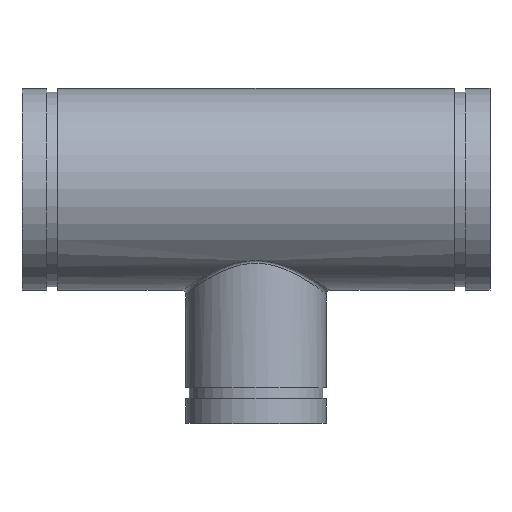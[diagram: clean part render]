
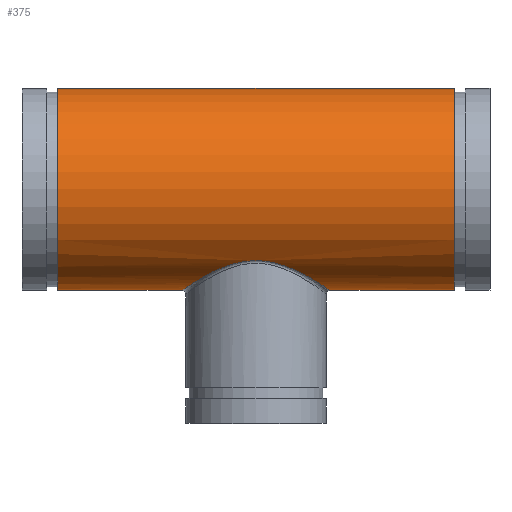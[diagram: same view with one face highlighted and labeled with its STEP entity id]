
A CAD part, top view. The second image highlights one B-rep face of the part: STEP entity #375.
In plain terms, the highlighted cylindrical face has radius 87.63 mm (diameter 175.26 mm), a full revolution.
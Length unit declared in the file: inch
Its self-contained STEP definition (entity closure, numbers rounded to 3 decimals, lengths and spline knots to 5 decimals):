
#54=FACE_BOUND('',#119,.T.);
#65=LINE('',#833,#76);
#76=VECTOR('',#483,3.45);
#87=CYLINDRICAL_SURFACE('',#415,3.45);
#98=FACE_OUTER_BOUND('',#118,.T.);
#118=EDGE_LOOP('',(#266,#267,#268,#269));
#119=EDGE_LOOP('',(#270));
#150=B_SPLINE_CURVE_WITH_KNOTS('',3,(#799,#800,#801,#802,#803,#804,#805,
#806,#807,#808,#809,#810,#811,#812,#813,#814,#815,#816,#817,#818,#819,#820,
#821,#822,#823,#824,#825,#826,#827,#828),.UNSPECIFIED.,.T.,.F.,(4,1,1,1,
1,1,1,1,1,1,1,1,1,1,1,1,1,1,1,1,1,1,1,1,1,1,1,4),(-38.45896,-37.08543,
-35.71189,-34.33836,-32.96482,-31.13344,
-29.30206,-28.38638,-27.47069,-25.63931,-23.80793,
-21.97655,-20.14517,-19.22948,-18.31379,
-17.3981,-16.48241,-14.65103,-12.81965,
-10.98827,-10.07258,-9.1569,-7.32552,
-5.49414,-4.1206,-2.74707,-1.37353,
0.),.UNSPECIFIED.);
#154=CIRCLE('',#416,3.45);
#155=CIRCLE('',#417,3.45);
#182=VERTEX_POINT('',#761);
#185=VERTEX_POINT('',#830);
#186=VERTEX_POINT('',#832);
#219=EDGE_CURVE('',#182,#182,#150,.T.);
#220=EDGE_CURVE('',#185,#185,#154,.T.);
#221=EDGE_CURVE('',#185,#186,#65,.T.);
#222=EDGE_CURVE('',#186,#186,#155,.T.);
#266=ORIENTED_EDGE('',*,*,#220,.T.);
#267=ORIENTED_EDGE('',*,*,#221,.T.);
#268=ORIENTED_EDGE('',*,*,#222,.T.);
#269=ORIENTED_EDGE('',*,*,#221,.F.);
#270=ORIENTED_EDGE('',*,*,#219,.F.);
#375=ADVANCED_FACE('',(#98,#54),#87,.T.);
#415=AXIS2_PLACEMENT_3D('',#829,#479,#480);
#416=AXIS2_PLACEMENT_3D('',#831,#481,#482);
#417=AXIS2_PLACEMENT_3D('',#834,#484,#485);
#479=DIRECTION('center_axis',(-1.,0.,0.));
#480=DIRECTION('ref_axis',(0.,-1.,0.));
#481=DIRECTION('center_axis',(1.,0.,0.));
#482=DIRECTION('ref_axis',(0.,-1.,0.));
#483=DIRECTION('',(1.,0.,0.));
#484=DIRECTION('center_axis',(-1.,0.,0.));
#485=DIRECTION('ref_axis',(0.,-1.,0.));
#761=CARTESIAN_POINT('',(0.,-2.44232,-2.43671));
#799=CARTESIAN_POINT('Ctrl Pts',(0.,-2.44232,-2.43671));
#800=CARTESIAN_POINT('Ctrl Pts',(0.1967,-2.44232,-2.43671));
#801=CARTESIAN_POINT('Ctrl Pts',(0.58939,-2.48864,-2.39142));
#802=CARTESIAN_POINT('Ctrl Pts',(1.12289,-2.6601,-2.20421));
#803=CARTESIAN_POINT('Ctrl Pts',(1.58657,-2.87561,-1.9198));
#804=CARTESIAN_POINT('Ctrl Pts',(2.01886,-3.11908,-1.5067));
#805=CARTESIAN_POINT('Ctrl Pts',(2.3737,-3.34662,-0.93503));
#806=CARTESIAN_POINT('Ctrl Pts',(2.52788,-3.45209,-0.31809));
#807=CARTESIAN_POINT('Ctrl Pts',(2.52742,-3.45157,0.19068));
#808=CARTESIAN_POINT('Ctrl Pts',(2.44619,-3.39653,0.69018));
#809=CARTESIAN_POINT('Ctrl Pts',(2.20176,-3.23324,1.26431));
#810=CARTESIAN_POINT('Ctrl Pts',(1.73436,-2.95119,1.81622));
#811=CARTESIAN_POINT('Ctrl Pts',(1.13252,-2.6544,2.21674));
#812=CARTESIAN_POINT('Ctrl Pts',(0.52515,-2.47242,2.40677));
#813=CARTESIAN_POINT('Ctrl Pts',(-0.00023,-2.43225,
2.44671));
#814=CARTESIAN_POINT('Ctrl Pts',(-0.39324,-2.46243,2.41678));
#815=CARTESIAN_POINT('Ctrl Pts',(-0.7687,-2.54511,2.33073));
#816=CARTESIAN_POINT('Ctrl Pts',(-1.23233,-2.70392,2.15003));
#817=CARTESIAN_POINT('Ctrl Pts',(-1.73463,-2.95107,1.81623));
#818=CARTESIAN_POINT('Ctrl Pts',(-2.20162,-3.2333,1.26437));
#819=CARTESIAN_POINT('Ctrl Pts',(-2.44624,-3.39651,0.69027));
#820=CARTESIAN_POINT('Ctrl Pts',(-2.52739,-3.45157,0.1907));
#821=CARTESIAN_POINT('Ctrl Pts',(-2.52791,-3.45209,-0.31803));
#822=CARTESIAN_POINT('Ctrl Pts',(-2.3737,-3.34663,-0.93501));
#823=CARTESIAN_POINT('Ctrl Pts',(-2.01889,-3.1191,-1.50667));
#824=CARTESIAN_POINT('Ctrl Pts',(-1.58658,-2.87562,-1.9198));
#825=CARTESIAN_POINT('Ctrl Pts',(-1.12288,-2.66009,-2.20422));
#826=CARTESIAN_POINT('Ctrl Pts',(-0.5894,-2.48865,-2.39141));
#827=CARTESIAN_POINT('Ctrl Pts',(-0.1967,-2.44232,-2.43671));
#828=CARTESIAN_POINT('Ctrl Pts',(0.,-2.44232,
-2.43671));
#829=CARTESIAN_POINT('Origin',(8.,0.,0.));
#830=CARTESIAN_POINT('',(-6.785,3.45,0.));
#831=CARTESIAN_POINT('Origin',(-6.785,0.,0.));
#832=CARTESIAN_POINT('',(6.785,3.45,0.));
#833=CARTESIAN_POINT('',(8.,3.45,0.));
#834=CARTESIAN_POINT('Origin',(6.785,0.,0.));
